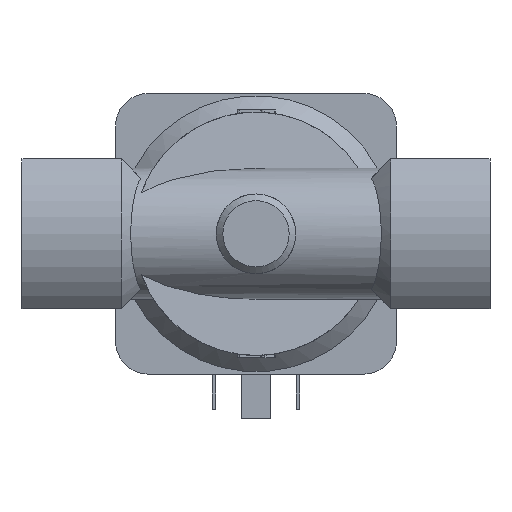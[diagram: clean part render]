
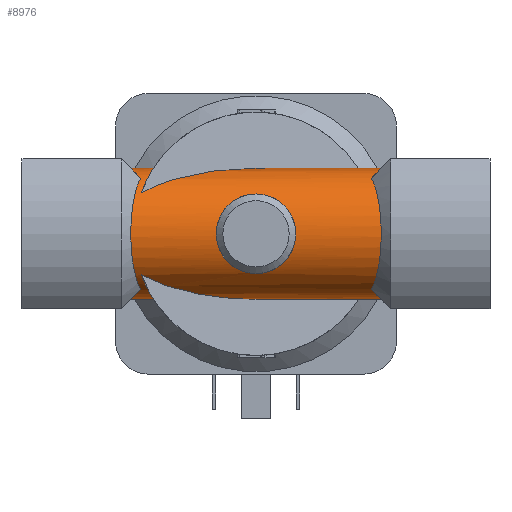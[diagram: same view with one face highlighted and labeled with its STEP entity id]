
A CAD part, front view. The second image highlights one B-rep face of the part: STEP entity #8976.
In plain terms, the highlighted cylindrical face has radius 14 mm (diameter 28 mm), a partial arc.
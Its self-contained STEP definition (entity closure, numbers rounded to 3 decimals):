
#735=LINE('',#14969,#1727);
#736=LINE('',#14981,#1728);
#737=LINE('',#14997,#1729);
#738=LINE('',#15008,#1730);
#1727=VECTOR('',#12364,1000.);
#1728=VECTOR('',#12367,1000.);
#1729=VECTOR('',#12372,1000.);
#1730=VECTOR('',#12375,1000.);
#2719=B_SPLINE_CURVE_WITH_KNOTS('',3,(#14957,#14958,#14959,#14960,#14961,
#14962,#14963,#14964,#14965),.UNSPECIFIED.,.F.,.F.,(4,1,1,1,1,1,4),(0.,
0.004,0.008,0.015,0.022,
0.026,0.029),.UNSPECIFIED.);
#2720=B_SPLINE_CURVE_WITH_KNOTS('',3,(#14971,#14972,#14973,#14974,#14975,
#14976,#14977),.UNSPECIFIED.,.F.,.F.,(4,1,1,1,4),(0.,
0.003,0.006,0.01,0.013),
 .UNSPECIFIED.);
#2721=B_SPLINE_CURVE_WITH_KNOTS('',3,(#14985,#14986,#14987,#14988,#14989,
#14990,#14991,#14992,#14993),.UNSPECIFIED.,.F.,.F.,(4,1,1,1,1,1,4),(0.,
0.004,0.008,0.015,0.022,
0.026,0.029),.UNSPECIFIED.);
#2722=B_SPLINE_CURVE_WITH_KNOTS('',3,(#15001,#15002,#15003,#15004,#15005,
#15006),.UNSPECIFIED.,.F.,.F.,(4,1,1,4),(0.001,0.008,
0.011,0.014),.UNSPECIFIED.);
#2723=B_SPLINE_CURVE_WITH_KNOTS('',3,(#15009,#15010,#15011,#15012,#15013,
#15014,#15015,#15016,#15017,#15018,#15019,#15020,#15021,#15022,#15023,#15024,
#15025,#15026,#15027,#15028),.UNSPECIFIED.,.T.,.F.,(1,1,1,1,1,1,1,1,1,1,
1,1,1,1,1,1,1,1,1,1,1,1,1,1),(-0.007,-0.003,
-0.002,0.,0.003,0.007,0.01,
0.014,0.017,0.02,0.024,
0.027,0.031,0.034,0.037,
0.041,0.044,0.048,0.051,
0.053,0.054,0.058,0.061,
0.065),.UNSPECIFIED.);
#2778=ORIENTED_EDGE('',*,*,#5458,.F.);
#2779=ORIENTED_EDGE('',*,*,#5459,.F.);
#2780=ORIENTED_EDGE('',*,*,#5460,.F.);
#2781=ORIENTED_EDGE('',*,*,#5461,.F.);
#2782=ORIENTED_EDGE('',*,*,#5462,.T.);
#2783=ORIENTED_EDGE('',*,*,#5463,.F.);
#2784=ORIENTED_EDGE('',*,*,#5464,.F.);
#2785=ORIENTED_EDGE('',*,*,#5465,.T.);
#2786=ORIENTED_EDGE('',*,*,#5466,.T.);
#2787=ORIENTED_EDGE('',*,*,#5467,.T.);
#2788=ORIENTED_EDGE('',*,*,#5468,.F.);
#2789=ORIENTED_EDGE('',*,*,#5469,.F.);
#2790=ORIENTED_EDGE('',*,*,#5470,.T.);
#2791=ORIENTED_EDGE('',*,*,#5471,.F.);
#2792=ORIENTED_EDGE('',*,*,#5472,.F.);
#5458=EDGE_CURVE('',#6798,#6799,#7708,.F.);
#5459=EDGE_CURVE('',#6800,#6798,#2719,.T.);
#5460=EDGE_CURVE('',#6801,#6800,#7709,.F.);
#5461=EDGE_CURVE('',#6802,#6801,#735,.T.);
#5462=EDGE_CURVE('',#6802,#6803,#2720,.T.);
#5463=EDGE_CURVE('',#6804,#6803,#7710,.F.);
#5464=EDGE_CURVE('',#6805,#6804,#736,.T.);
#5465=EDGE_CURVE('',#6805,#6806,#7711,.T.);
#5466=EDGE_CURVE('',#6806,#6807,#2721,.T.);
#5467=EDGE_CURVE('',#6807,#6808,#7712,.T.);
#5468=EDGE_CURVE('',#6809,#6808,#737,.T.);
#5469=EDGE_CURVE('',#6810,#6809,#7713,.F.);
#5470=EDGE_CURVE('',#6810,#6811,#2722,.T.);
#5471=EDGE_CURVE('',#6799,#6811,#738,.T.);
#5472=EDGE_CURVE('',#6812,#6812,#2723,.T.);
#6798=VERTEX_POINT('',#14955);
#6799=VERTEX_POINT('',#14956);
#6800=VERTEX_POINT('',#14966);
#6801=VERTEX_POINT('',#14968);
#6802=VERTEX_POINT('',#14970);
#6803=VERTEX_POINT('',#14978);
#6804=VERTEX_POINT('',#14980);
#6805=VERTEX_POINT('',#14982);
#6806=VERTEX_POINT('',#14984);
#6807=VERTEX_POINT('',#14994);
#6808=VERTEX_POINT('',#14996);
#6809=VERTEX_POINT('',#14998);
#6810=VERTEX_POINT('',#15000);
#6811=VERTEX_POINT('',#15007);
#6812=VERTEX_POINT('',#15029);
#7708=ELLIPSE('',#11556,19.799,14.);
#7709=ELLIPSE('',#11557,19.799,14.);
#7710=ELLIPSE('',#11558,34.42,14.);
#7711=ELLIPSE('',#11559,19.799,14.);
#7712=ELLIPSE('',#11560,19.799,14.);
#7713=ELLIPSE('',#11561,34.42,14.);
#7724=EDGE_LOOP('',(#2778,#2779,#2780,#2781,#2782,#2783,#2784,#2785,#2786,
#2787,#2788,#2789,#2790,#2791));
#7725=EDGE_LOOP('',(#2792));
#8308=FACE_BOUND('',#7724,.T.);
#8309=FACE_BOUND('',#7725,.T.);
#8892=CYLINDRICAL_SURFACE('',#11555,14.);
#8976=ADVANCED_FACE('',(#8308,#8309),#8892,.T.);
#11555=AXIS2_PLACEMENT_3D('',#14953,#12358,#12359);
#11556=AXIS2_PLACEMENT_3D('',#14954,#12360,#12361);
#11557=AXIS2_PLACEMENT_3D('',#14967,#12362,#12363);
#11558=AXIS2_PLACEMENT_3D('',#14979,#12365,#12366);
#11559=AXIS2_PLACEMENT_3D('',#14983,#12368,#12369);
#11560=AXIS2_PLACEMENT_3D('',#14995,#12370,#12371);
#11561=AXIS2_PLACEMENT_3D('',#14999,#12373,#12374);
#12358=DIRECTION('',(-1.,0.,0.));
#12359=DIRECTION('',(0.,0.,1.));
#12360=DIRECTION('',(0.707,0.,0.707));
#12361=DIRECTION('',(-0.707,0.,0.707));
#12362=DIRECTION('',(0.707,0.,-0.707));
#12363=DIRECTION('',(-0.707,0.,-0.707));
#12364=DIRECTION('',(-1.,0.,0.));
#12365=DIRECTION('',(0.407,-0.914,0.));
#12366=DIRECTION('',(-0.914,-0.407,0.));
#12367=DIRECTION('',(-1.,0.,0.));
#12368=DIRECTION('',(-0.707,0.,-0.707));
#12369=DIRECTION('',(-0.707,0.,0.707));
#12370=DIRECTION('',(-0.707,0.,0.707));
#12371=DIRECTION('',(-0.707,0.,-0.707));
#12372=DIRECTION('',(1.,0.,0.));
#12373=DIRECTION('',(0.407,-0.914,0.));
#12374=DIRECTION('',(-0.914,-0.407,0.));
#12375=DIRECTION('',(1.,0.,0.));
#14953=CARTESIAN_POINT('',(30.,0.,0.));
#14954=CARTESIAN_POINT('',(-12.75,0.,0.));
#14955=CARTESIAN_POINT('',(-24.652,-7.372,11.902));
#14956=CARTESIAN_POINT('',(-26.75,0.,14.));
#14957=CARTESIAN_POINT('',(-24.652,-7.372,-11.902));
#14958=CARTESIAN_POINT('',(-24.982,-8.359,-11.291));
#14959=CARTESIAN_POINT('',(-25.57,-10.165,-9.838));
#14960=CARTESIAN_POINT('',(-26.466,-13.041,-6.012));
#14961=CARTESIAN_POINT('',(-26.938,-14.636,-0.018));
#14962=CARTESIAN_POINT('',(-26.47,-13.052,5.986));
#14963=CARTESIAN_POINT('',(-25.577,-10.187,9.817));
#14964=CARTESIAN_POINT('',(-24.984,-8.364,11.288));
#14965=CARTESIAN_POINT('',(-24.652,-7.372,11.902));
#14966=CARTESIAN_POINT('',(-24.652,-7.372,-11.902));
#14967=CARTESIAN_POINT('',(-12.75,0.,0.));
#14968=CARTESIAN_POINT('',(-26.75,0.,-14.));
#14969=CARTESIAN_POINT('',(30.,0.,-14.));
#14970=CARTESIAN_POINT('',(-21.909,0.,-14.));
#14971=CARTESIAN_POINT('',(-21.909,0.,-14.));
#14972=CARTESIAN_POINT('',(-21.909,-1.077,-14.));
#14973=CARTESIAN_POINT('',(-22.068,-3.182,-13.756));
#14974=CARTESIAN_POINT('',(-22.708,-6.173,-12.696));
#14975=CARTESIAN_POINT('',(-23.575,-8.799,-11.032));
#14976=CARTESIAN_POINT('',(-24.18,-10.247,-9.595));
#14977=CARTESIAN_POINT('',(-24.468,-10.894,-8.793));
#14978=CARTESIAN_POINT('',(-24.468,-10.894,-8.793));
#14979=CARTESIAN_POINT('',(0.,0.,0.));
#14980=CARTESIAN_POINT('',(0.,0.,-14.));
#14981=CARTESIAN_POINT('',(30.,0.,-14.));
#14982=CARTESIAN_POINT('',(26.75,0.,-14.));
#14983=CARTESIAN_POINT('',(12.75,0.,0.));
#14984=CARTESIAN_POINT('',(24.652,-7.372,-11.902));
#14985=CARTESIAN_POINT('',(24.652,-7.372,-11.902));
#14986=CARTESIAN_POINT('',(24.982,-8.359,-11.291));
#14987=CARTESIAN_POINT('',(25.57,-10.165,-9.838));
#14988=CARTESIAN_POINT('',(26.466,-13.041,-6.012));
#14989=CARTESIAN_POINT('',(26.938,-14.636,-0.018));
#14990=CARTESIAN_POINT('',(26.47,-13.052,5.986));
#14991=CARTESIAN_POINT('',(25.577,-10.187,9.817));
#14992=CARTESIAN_POINT('',(24.984,-8.364,11.288));
#14993=CARTESIAN_POINT('',(24.652,-7.372,11.902));
#14994=CARTESIAN_POINT('',(24.652,-7.372,11.902));
#14995=CARTESIAN_POINT('',(12.75,0.,0.));
#14996=CARTESIAN_POINT('',(26.75,0.,14.));
#14997=CARTESIAN_POINT('',(-30.,0.,14.));
#14998=CARTESIAN_POINT('',(0.,0.,14.));
#14999=CARTESIAN_POINT('',(0.,0.,0.));
#15000=CARTESIAN_POINT('',(-24.468,-10.894,8.793));
#15001=CARTESIAN_POINT('',(-24.468,-10.894,8.793));
#15002=CARTESIAN_POINT('',(-23.895,-9.607,10.387));
#15003=CARTESIAN_POINT('',(-22.925,-7.177,12.336));
#15004=CARTESIAN_POINT('',(-22.069,-3.192,13.754));
#15005=CARTESIAN_POINT('',(-21.909,-1.079,14.));
#15006=CARTESIAN_POINT('',(-21.909,0.,14.));
#15007=CARTESIAN_POINT('',(-21.909,0.,14.));
#15008=CARTESIAN_POINT('',(-30.,0.,14.));
#15009=CARTESIAN_POINT('',(-1.727,-11.216,-8.382));
#15010=CARTESIAN_POINT('',(0.581,-11.031,-8.619));
#15011=CARTESIAN_POINT('',(3.406,-11.506,-8.024));
#15012=CARTESIAN_POINT('',(6.135,-12.653,-6.175));
#15013=CARTESIAN_POINT('',(8.012,-13.697,-3.443));
#15014=CARTESIAN_POINT('',(8.738,-14.148,-0.039));
#15015=CARTESIAN_POINT('',(8.036,-13.711,3.399));
#15016=CARTESIAN_POINT('',(6.155,-12.664,6.153));
#15017=CARTESIAN_POINT('',(3.451,-11.52,8.006));
#15018=CARTESIAN_POINT('',(0.035,-10.932,8.74));
#15019=CARTESIAN_POINT('',(-3.389,-11.499,8.035));
#15020=CARTESIAN_POINT('',(-6.124,-12.648,6.186));
#15021=CARTESIAN_POINT('',(-8.011,-13.696,3.45));
#15022=CARTESIAN_POINT('',(-8.739,-14.149,0.033));
#15023=CARTESIAN_POINT('',(-8.034,-13.71,-3.403));
#15024=CARTESIAN_POINT('',(-6.15,-12.659,-6.162));
#15025=CARTESIAN_POINT('',(-3.881,-11.708,-7.704));
#15026=CARTESIAN_POINT('',(-1.727,-11.216,-8.382));
#15027=CARTESIAN_POINT('',(0.581,-11.031,-8.619));
#15028=CARTESIAN_POINT('',(3.406,-11.506,-8.024));
#15029=CARTESIAN_POINT('',(0.,-11.124,-8.5));
